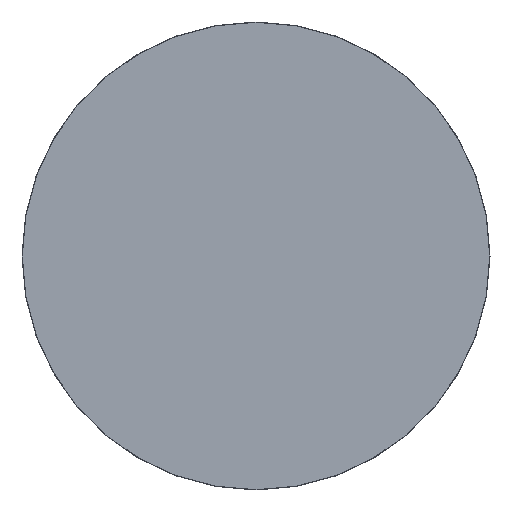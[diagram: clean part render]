
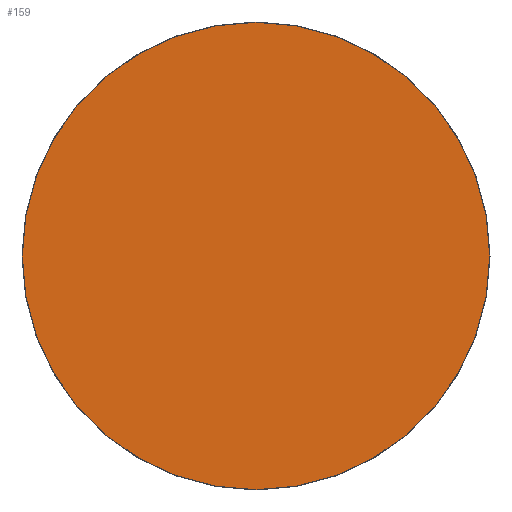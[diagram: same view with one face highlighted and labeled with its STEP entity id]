
A CAD part, left-side view. The second image highlights one B-rep face of the part: STEP entity #159.
In plain terms, the highlighted planar face has unit normal (-1, 0, 0).
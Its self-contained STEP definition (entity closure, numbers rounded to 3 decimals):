
#128 = AXIS2_PLACEMENT_3D ( 'NONE', #2157, #297, #2380 ) ;
#159 = ADVANCED_FACE ( 'NONE', ( #2382 ), #2134, .T. ) ;
#219 = AXIS2_PLACEMENT_3D ( 'NONE', #1048, #1838, #546 ) ;
#256 = ORIENTED_EDGE ( 'NONE', *, *, #1247, .T. ) ;
#297 = DIRECTION ( 'NONE',  ( -1., 0., 0. ) ) ;
#546 = DIRECTION ( 'NONE',  ( 0., 0., -1. ) ) ;
#712 = VERTEX_POINT ( 'NONE', #2609 ) ;
#779 = ORIENTED_EDGE ( 'NONE', *, *, #2347, .T. ) ;
#1048 = CARTESIAN_POINT ( 'NONE',  ( -7.1, 0., 0. ) ) ;
#1192 = DIRECTION ( 'NONE',  ( 0., 0., -1. ) ) ;
#1247 = EDGE_CURVE ( 'NONE', #1524, #712, #1727, .T. ) ;
#1434 = AXIS2_PLACEMENT_3D ( 'NONE', #2515, #2783, #1192 ) ;
#1524 = VERTEX_POINT ( 'NONE', #2774 ) ;
#1596 = CIRCLE ( 'NONE', #1434, 74.9 ) ;
#1727 = CIRCLE ( 'NONE', #219, 74.9 ) ;
#1838 = DIRECTION ( 'NONE',  ( -1., 0., 0. ) ) ;
#2134 = PLANE ( 'NONE',  #128 ) ;
#2157 = CARTESIAN_POINT ( 'NONE',  ( -7.1, 0., 0. ) ) ;
#2347 = EDGE_CURVE ( 'NONE', #712, #1524, #1596, .T. ) ;
#2380 = DIRECTION ( 'NONE',  ( 0., 0., -1. ) ) ;
#2382 = FACE_OUTER_BOUND ( 'NONE', #2540, .T. ) ;
#2515 = CARTESIAN_POINT ( 'NONE',  ( -7.1, 0., 0. ) ) ;
#2540 = EDGE_LOOP ( 'NONE', ( #779, #256 ) ) ;
#2609 = CARTESIAN_POINT ( 'NONE',  ( -7.1, 0., -74.9 ) ) ;
#2774 = CARTESIAN_POINT ( 'NONE',  ( -7.1, 0., 74.9 ) ) ;
#2783 = DIRECTION ( 'NONE',  ( -1., 0., 0. ) ) ;
